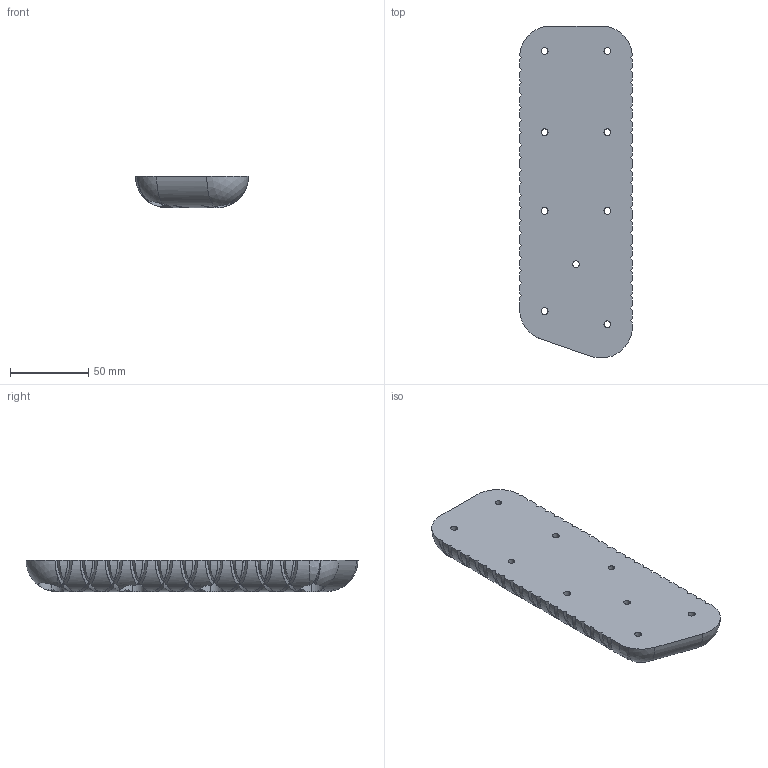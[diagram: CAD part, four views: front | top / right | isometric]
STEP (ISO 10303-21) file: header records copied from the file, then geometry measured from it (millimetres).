
FILE_DESCRIPTION((''),'2;1');
FILE_NAME('KD-D-601R_1','2025-07-12T17:51:11',('Administrator'),(''),'CREO PARAMETRIC BY PTC INC, 2022073','CREO PARAMETRIC BY PTC INC, 2022073','');
FILE_SCHEMA(('CONFIG_CONTROL_DESIGN'));
Length unit declared in the file: millimetre
Products named in the file (1): KD-D-601R_1
Bounding box: 72 x 211.88 x 20 mm (x, y, z)
Volume: 218717.4 mm3; surface area: 43244.4 mm2
Topology: 1 solids, 1 shells, 631 faces, 1593 edges, 959 vertices
Faces by surface type: plane 263, bspline 251, cylinder 112, sphere 5
Entity records: 27385 total; most frequent: CARTESIAN_POINT 14448, ORIENTED_EDGE 3176, DIRECTION 1747, EDGE_CURVE 1588, VERTEX_POINT 959, VECTOR 799, LINE 799, B_SPLINE_CURVE_WITH_KNOTS 695
